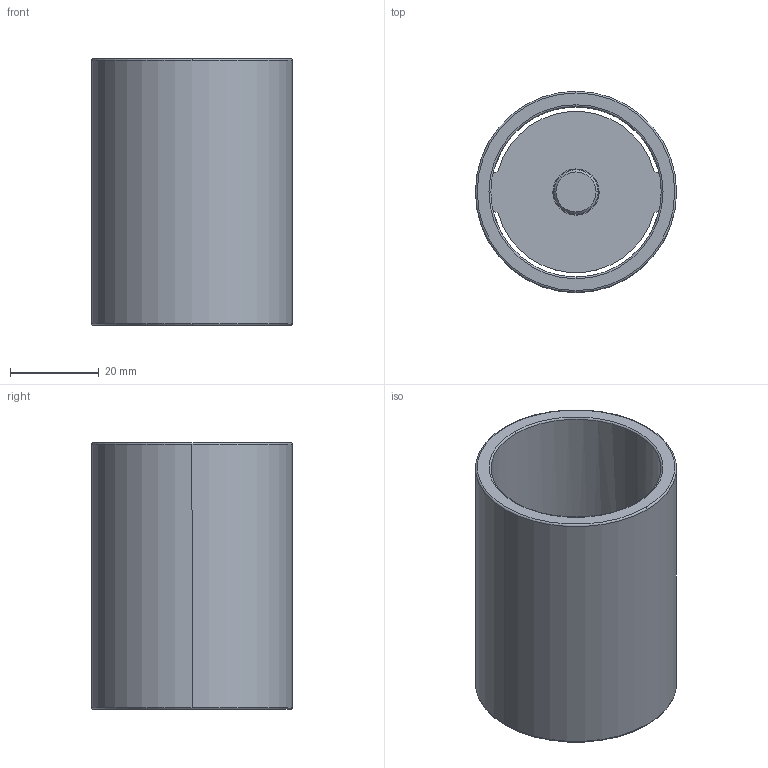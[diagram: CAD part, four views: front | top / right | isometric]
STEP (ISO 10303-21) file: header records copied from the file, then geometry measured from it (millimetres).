
FILE_DESCRIPTION((''),'2;1');
FILE_NAME('C11_038_060.stp','2009-01-12T09:42:59',(''),(''),'Mechanical Desktop 2009','Mechanical Desktop 2009',', , ');
FILE_SCHEMA(('CONFIG_CONTROL_DESIGN'));
Length unit declared in the file: millimetre
Products named in the file (2): Product; blmdl1
Assembly tree (1 placements, depth 2):
  Product
    blmdl1
Bounding box: 45.25 x 45.25 x 60 mm (x, y, z)
Volume: 31738 mm3; surface area: 20435.5 mm2
Topology: 3 solids, 3 shells, 44 faces, 110 edges, 74 vertices
Faces by surface type: cylinder 16, plane 16, torus 10, cone 2
Entity records: 1507 total; most frequent: CARTESIAN_POINT 274, DIRECTION 266, ORIENTED_EDGE 220, AXIS2_PLACEMENT_3D 114, EDGE_CURVE 110, VERTEX_POINT 74, CIRCLE 68, EDGE_LOOP 50
